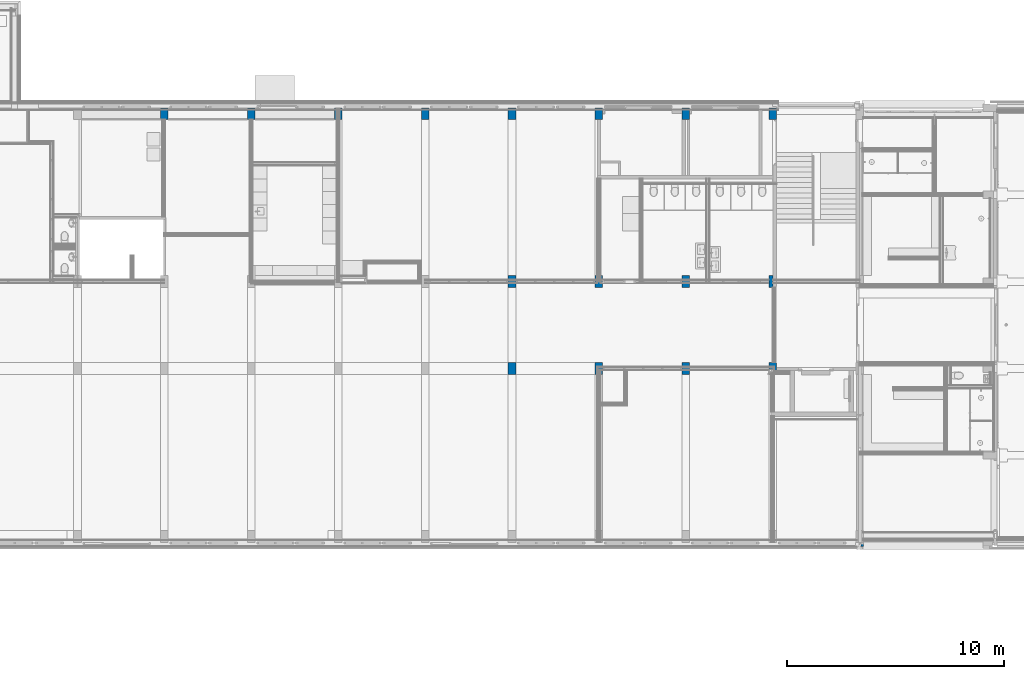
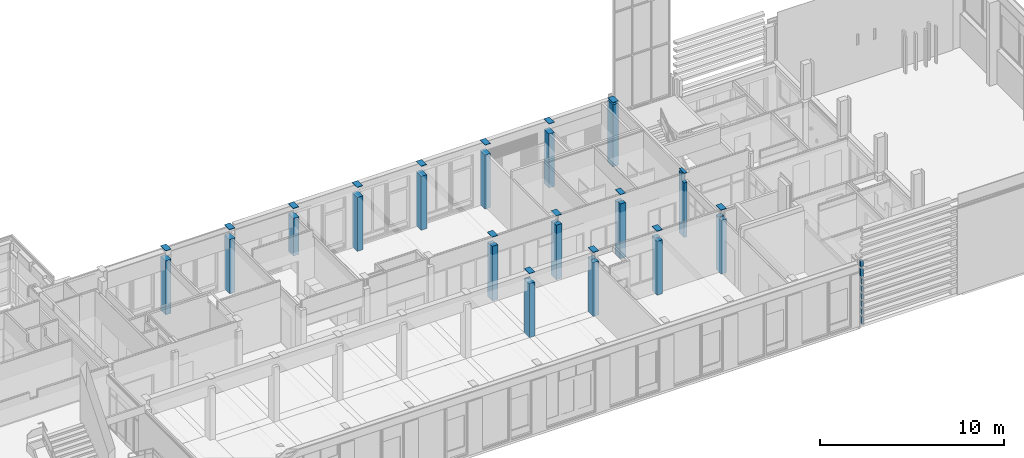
# One storey, part 5 of 109: 17 columns.
"""IFC2X3 building model written with IfcOpenShell, lengths in millimetres."""

from ifc_helpers import new_model, entity, si_unit, converted_unit, derived_unit, money_unit, direction, frame, origin_with_axes, place, context, subcontext, project, spatial, faceted_brep, material, type_object, element, save


model = new_model("IFC2X3")

# Units and contexts
model_context = context("Model", 3, precision=0.01, world=origin_with_axes(), true_north=direction((0.0, 1.0)))
body_context = subcontext(model_context, "Body", "Model", "MODEL_VIEW")
ifc_project = project(units=[si_unit("LENGTHUNIT", "METRE", prefix="MILLI"), si_unit("AREAUNIT", "SQUARE_METRE"), si_unit("VOLUMEUNIT", "CUBIC_METRE"), converted_unit("PLANEANGLEUNIT", "DEGREE", entity("IfcPlaneAngleMeasure", 0.0174532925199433), si_unit("PLANEANGLEUNIT", "RADIAN"), dimensions=[0, 0, 0, 0, 0, 0, 0]), money_unit("EUR"), converted_unit("TIMEUNIT", "Year", entity("IfcTimeMeasure", 31557600.0), si_unit("TIMEUNIT", "SECOND"), dimensions=[0, 0, 1, 0, 0, 0, 0]), si_unit("MASSUNIT", "GRAM", prefix="KILO"), si_unit("THERMODYNAMICTEMPERATUREUNIT", "DEGREE_CELSIUS"), si_unit("LUMINOUSINTENSITYUNIT", "LUMEN"), si_unit("ENERGYUNIT", "JOULE", prefix="MEGA"), derived_unit("THERMALCONDUCTANCEUNIT", [(si_unit("POWERUNIT", "WATT"), 1), (si_unit("LENGTHUNIT", "METRE"), -1), (si_unit("THERMODYNAMICTEMPERATUREUNIT", "KELVIN"), -1)]), derived_unit("SPECIFICHEATCAPACITYUNIT", [(si_unit("ENERGYUNIT", "JOULE"), 1), (si_unit("MASSUNIT", "GRAM", prefix="KILO"), -1), (si_unit("THERMODYNAMICTEMPERATUREUNIT", "KELVIN"), -1)]), derived_unit("MASSDENSITYUNIT", [(si_unit("MASSUNIT", "GRAM", prefix="KILO"), 1), (si_unit("VOLUMEUNIT", "CUBIC_METRE"), -1)])], contexts=[model_context])

# Site, building, storey
site_placement = place(None, origin_with_axes())
site = spatial("IfcSite", under=ifc_project, at=site_placement, Name="<site naam>", CompositionType="ELEMENT")
building_placement = place(site_placement, origin_with_axes())
building = spatial("IfcBuilding", under=site, at=building_placement, Name="<Naam gebouw>", CompositionType="ELEMENT")
storey_placement = place(building_placement, origin_with_axes())
storey = spatial("IfcBuildingStorey", under=building, at=storey_placement, Name="00 Begane grond", CompositionType="ELEMENT", Elevation=0.0)

# Columns
ifc_material = material(Name="betonblok C")
column_type_1 = type_object("IfcColumnType", Name="betonblok C 350 x 550", PredefinedType="COLUMN")
column_1_placement = place(storey_placement, frame((28000.00000000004, 19724.99999999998, 1100.0), z_axis=(0.0, 0.0, 1.0), x_axis=(1.0, 0.0, 0.0)))
element("IfcColumn", 1, at=column_1_placement, inside=storey, type_object=column_type_1, material=ifc_material, Name="28_Kolom_betonblok", ObjectType="COLUMN", context=body_context, shape_type="Brep", body=[
    faceted_brep([(-175.0000000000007, 274.9999999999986, 0.0), (-175.0000000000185, 274.9999999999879, 2485.000000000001), (174.9999999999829, 274.9999999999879, 2485.000000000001), (175.0000000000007, 274.9999999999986, 0.0), (-175.0000000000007, -274.9999999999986, 0.0), (-175.0000000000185, -274.9999999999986, 2485.000000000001), (174.9999999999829, -274.9999999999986, 2485.000000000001), (175.0000000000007, -274.9999999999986, 0.0)], [[[0, 1, 2, 3]], [[4, 5, 1, 0]], [[5, 6, 2, 1]], [[3, 2, 6, 7]], [[0, 3, 7, 4]], [[7, 6, 5, 4]]]),
    faceted_brep([(175.0000000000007, -274.9999999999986, 3150.0), (175.0000000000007, -274.9999999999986, 3120.0), (175.0000000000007, 274.9999999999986, 3120.0), (175.0000000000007, 274.9999999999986, 3150.0), (-175.0000000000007, -274.9999999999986, 3150.0), (-175.0000000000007, -274.9999999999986, 3120.0), (-175.0000000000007, 274.9999999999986, 3120.0), (-175.0000000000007, 274.9999999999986, 3150.0)], [[[0, 1, 2, 3]], [[4, 5, 1, 0]], [[5, 6, 2, 1]], [[3, 2, 6, 7]], [[3, 7, 4, 0]], [[7, 6, 5, 4]]]),
])
column_2_placement = place(storey_placement, frame((36000.00000000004, 12000.00000000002, 0.0), z_axis=(0.0, 0.0, 1.0), x_axis=(1.0, 0.0, 0.0)))
element("IfcColumn", 2, at=column_2_placement, inside=storey, type_object=column_type_1, material=ifc_material, Name="28_Kolom_betonblok", ObjectType="COLUMN", context=body_context, shape_type="Brep", body=[
    faceted_brep([(-175.0000000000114, 0.0, 3570.0), (-175.0000000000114, 0.0, 3620.0), (174.9999999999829, 0.0, 3620.0), (174.9999999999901, 0.0, 3570.0), (-174.9999999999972, -275.0000000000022, 0.0), (-175.0000000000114, -275.0000000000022, 3620.0), (-175.0000000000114, 274.9999999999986, 3570.0), (-174.9999999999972, 274.9999999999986, 0.0), (174.9999999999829, -275.0000000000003, 3620.0), (174.9999999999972, -275.0000000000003, 0.0), (174.9999999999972, 275.0000000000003, 0.0), (174.9999999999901, 275.0000000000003, 3570.0)], [[[0, 1, 2, 3]], [[4, 5, 1, 0, 6, 7]], [[5, 8, 2, 1]], [[3, 2, 8, 9, 10, 11]], [[0, 3, 11, 6]], [[9, 8, 5, 4]], [[7, 6, 11, 10]], [[7, 10, 9, 4]]]),
    faceted_brep([(174.9999999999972, -275.0000000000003, 4250.0), (174.9999999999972, -275.0000000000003, 4220.0), (174.9999999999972, 275.0000000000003, 4220.0), (174.9999999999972, 275.0000000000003, 4250.0), (-174.9999999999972, -275.0000000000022, 4250.0), (-174.9999999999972, -275.0000000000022, 4220.0), (-174.9999999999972, 274.9999999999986, 4220.0), (-174.9999999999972, 274.9999999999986, 4250.0)], [[[0, 1, 2, 3]], [[4, 5, 1, 0]], [[5, 6, 2, 1]], [[3, 2, 6, 7]], [[3, 7, 4, 0]], [[7, 6, 5, 4]]]),
])
column_3_placement = place(storey_placement, frame((40000.00000000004, 12000.00000000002, 0.0), z_axis=(0.0, 0.0, 1.0), x_axis=(1.0, 0.0, 0.0)))
element("IfcColumn", 3, at=column_3_placement, inside=storey, type_object=column_type_1, material=ifc_material, Name="28_Kolom_betonblok", ObjectType="COLUMN", context=body_context, shape_type="Brep", body=[
    faceted_brep([(-175.0000000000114, 0.0, 3570.0), (-175.0000000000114, 0.0, 3620.0), (174.9999999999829, 0.0, 3620.0), (174.9999999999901, 0.0, 3570.0), (-174.9999999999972, -275.0000000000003, 0.0), (-175.0000000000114, -275.0000000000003, 3620.0), (-175.0000000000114, 275.0000000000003, 3570.0), (-174.9999999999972, 275.0000000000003, 0.0), (174.9999999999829, -275.0000000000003, 3620.0), (174.9999999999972, -275.0000000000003, 0.0), (174.9999999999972, 275.0000000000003, 0.0), (174.9999999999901, 275.0000000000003, 3570.0)], [[[0, 1, 2, 3]], [[4, 5, 1, 0, 6, 7]], [[5, 8, 2, 1]], [[3, 2, 8, 9, 10, 11]], [[0, 3, 11, 6]], [[9, 8, 5, 4]], [[7, 6, 11, 10]], [[7, 10, 9, 4]]]),
    faceted_brep([(174.9999999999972, -275.0000000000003, 4250.0), (174.9999999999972, -275.0000000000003, 4220.0), (174.9999999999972, 275.0000000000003, 4220.0), (174.9999999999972, 275.0000000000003, 4250.0), (-174.9999999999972, -275.0000000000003, 4250.0), (-174.9999999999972, -275.0000000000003, 4220.0), (-174.9999999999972, 275.0000000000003, 4220.0), (-174.9999999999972, 275.0000000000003, 4250.0)], [[[0, 1, 2, 3]], [[4, 5, 1, 0]], [[5, 6, 2, 1]], [[3, 2, 6, 7]], [[3, 7, 4, 0]], [[7, 6, 5, 4]]]),
])
column_4_placement = place(storey_placement, frame((40000.00000000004, 19724.99999999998, 0.0), z_axis=(0.0, 0.0, 1.0), x_axis=(1.0, 0.0, 0.0)))
element("IfcColumn", 4, at=column_4_placement, inside=storey, type_object=column_type_1, material=ifc_material, Name="28_Kolom_betonblok", ObjectType="COLUMN", context=body_context, shape_type="Brep", body=[
    faceted_brep([(-174.9999999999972, 274.999999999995, 0.0), (-175.0000000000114, 274.9999999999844, 3570.0), (174.9999999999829, 274.9999999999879, 3570.0), (174.9999999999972, 274.9999999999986, 0.0), (-174.9999999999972, -275.0000000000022, 0.0), (-175.0000000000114, -275.0000000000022, 3570.0), (174.9999999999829, -274.9999999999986, 3570.0), (174.9999999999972, -274.9999999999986, 0.0)], [[[0, 1, 2, 3]], [[4, 5, 1, 0]], [[5, 6, 2, 1]], [[3, 2, 6, 7]], [[0, 3, 7, 4]], [[7, 6, 5, 4]]]),
    faceted_brep([(174.9999999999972, -274.9999999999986, 4250.0), (174.9999999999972, -274.9999999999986, 4220.0), (174.9999999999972, 274.9999999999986, 4220.0), (174.9999999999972, 274.9999999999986, 4250.0), (-174.9999999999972, -275.0000000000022, 4250.0), (-174.9999999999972, -275.0000000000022, 4220.0), (-174.9999999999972, 274.999999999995, 4220.0), (-174.9999999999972, 274.999999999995, 4250.0)], [[[0, 1, 2, 3]], [[4, 5, 1, 0]], [[5, 6, 2, 1]], [[3, 2, 6, 7]], [[3, 7, 4, 0]], [[7, 6, 5, 4]]]),
])
for number, where, z_axis, x_axis, name in (
    (5, (36000.00000000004, 19724.99999999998, 0.0), (0.0, 0.0, 1.0), (1.0, 0.0, 0.0), "28_Kolom_betonblok"),
    (6, (44000.00000000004, 19724.99999999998, 0.0), (0.0, 0.0, 1.0), (1.0, 0.0, 0.0), "28_Kolom_betonblok"),
):
    element("IfcColumn", number, at=place(storey_placement, frame(where, z_axis=z_axis, x_axis=x_axis)), inside=storey, type_object=column_type_1, material=ifc_material, Name=name, ObjectType="COLUMN", context=body_context, shape_type="Brep", body=[
        faceted_brep([(-174.9999999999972, 274.9999999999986, 0.0), (-175.0000000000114, 274.9999999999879, 3570.0), (174.9999999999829, 274.9999999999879, 3570.0), (174.9999999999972, 274.9999999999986, 0.0), (-174.9999999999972, -274.9999999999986, 0.0), (-175.0000000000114, -274.9999999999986, 3570.0), (174.9999999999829, -274.9999999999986, 3570.0), (174.9999999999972, -274.9999999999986, 0.0)], [[[0, 1, 2, 3]], [[4, 5, 1, 0]], [[5, 6, 2, 1]], [[3, 2, 6, 7]], [[0, 3, 7, 4]], [[7, 6, 5, 4]]]),
        faceted_brep([(174.9999999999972, -274.9999999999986, 4250.0), (174.9999999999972, -274.9999999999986, 4220.0), (174.9999999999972, 274.9999999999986, 4220.0), (174.9999999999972, 274.9999999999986, 4250.0), (-174.9999999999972, -274.9999999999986, 4250.0), (-174.9999999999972, -274.9999999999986, 4220.0), (-174.9999999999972, 274.9999999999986, 4220.0), (-174.9999999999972, 274.9999999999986, 4250.0)], [[[0, 1, 2, 3]], [[4, 5, 1, 0]], [[5, 6, 2, 1]], [[3, 2, 6, 7]], [[3, 7, 4, 0]], [[7, 6, 5, 4]]]),
    ])
column_5_placement = place(storey_placement, frame((48000.00000000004, 8000.000000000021, 0.0), z_axis=(0.0, 0.0, 1.0), x_axis=(1.0, 0.0, 0.0)))
element("IfcColumn", 7, at=column_5_placement, inside=storey, type_object=column_type_1, material=ifc_material, Name="28_Kolom_betonblok", ObjectType="COLUMN", context=body_context, shape_type="Brep", body=[
    faceted_brep([(-175.0000000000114, 275.0000000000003, 3620.0), (-175.0000000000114, 0.0, 3620.0), (174.9999999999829, 0.0, 3620.0), (174.9999999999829, 275.0000000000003, 3620.0), (-175.0000000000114, -275.0000000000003, 3570.0), (-175.0000000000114, 0.0, 3570.0), (-174.9999999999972, 275.0000000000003, 0.0), (-174.9999999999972, -275.0000000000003, 0.0), (174.9999999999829, 0.0, 3570.0), (174.9999999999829, -275.0000000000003, 3570.0), (174.9999999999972, -275.0000000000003, 0.0), (174.9999999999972, 275.0000000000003, 0.0)], [[[0, 1, 2, 3]], [[4, 5, 1, 0, 6, 7]], [[5, 8, 2, 1]], [[2, 8, 9, 10, 11, 3]], [[6, 0, 3, 11]], [[4, 9, 8, 5]], [[6, 11, 10, 7]], [[10, 9, 4, 7]]]),
    faceted_brep([(174.9999999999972, -275.0000000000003, 4250.0), (174.9999999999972, -275.0000000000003, 4220.0), (174.9999999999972, 275.0000000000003, 4220.0), (174.9999999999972, 275.0000000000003, 4250.0), (-174.9999999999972, -275.0000000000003, 4250.0), (-174.9999999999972, -275.0000000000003, 4220.0), (-174.9999999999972, 275.0000000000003, 4220.0), (-174.9999999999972, 275.0000000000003, 4250.0)], [[[0, 1, 2, 3]], [[4, 5, 1, 0]], [[5, 6, 2, 1]], [[3, 2, 6, 7]], [[3, 7, 4, 0]], [[7, 6, 5, 4]]]),
])
column_6_placement = place(storey_placement, frame((44000.00000000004, 12000.00000000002, 0.0), z_axis=(0.0, 0.0, 1.0), x_axis=(1.0, 0.0, 0.0)))
element("IfcColumn", 8, at=column_6_placement, inside=storey, type_object=column_type_1, material=ifc_material, Name="28_Kolom_betonblok", ObjectType="COLUMN", context=body_context, shape_type="Brep", body=[
    faceted_brep([(-175.0000000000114, 0.0, 3570.0), (-175.0000000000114, 0.0, 3620.0), (174.9999999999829, 0.0, 3620.0), (174.9999999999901, 0.0, 3570.0), (-174.9999999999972, -275.0000000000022, 0.0), (-175.0000000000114, -275.0000000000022, 3620.0), (-175.0000000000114, 274.9999999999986, 3570.0), (-174.9999999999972, 274.9999999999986, 0.0), (174.9999999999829, -275.0000000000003, 3620.0), (174.9999999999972, -275.0000000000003, 0.0), (174.9999999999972, 275.0000000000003, 0.0), (174.9999999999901, 275.0000000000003, 3570.0)], [[[0, 1, 2, 3]], [[4, 5, 1, 0, 6, 7]], [[5, 8, 2, 1]], [[3, 2, 8, 9, 10, 11]], [[0, 3, 11, 6]], [[9, 8, 5, 4]], [[7, 6, 11, 10]], [[7, 10, 9, 4]]]),
    faceted_brep([(174.9999999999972, -275.0000000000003, 4250.0), (174.9999999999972, -275.0000000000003, 4220.0), (174.9999999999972, 275.0000000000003, 4220.0), (174.9999999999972, 275.0000000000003, 4250.0), (-174.9999999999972, -275.0000000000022, 4250.0), (-174.9999999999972, -275.0000000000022, 4220.0), (-174.9999999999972, 274.9999999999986, 4220.0), (-174.9999999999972, 274.9999999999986, 4250.0)], [[[0, 1, 2, 3]], [[4, 5, 1, 0]], [[5, 6, 2, 1]], [[3, 2, 6, 7]], [[3, 7, 4, 0]], [[7, 6, 5, 4]]]),
])
column_7_placement = place(storey_placement, frame((44000.00000000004, 8000.000000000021, 0.0), z_axis=(0.0, 0.0, 1.0), x_axis=(1.0, 0.0, 0.0)))
element("IfcColumn", 9, at=column_7_placement, inside=storey, type_object=column_type_1, material=ifc_material, Name="28_Kolom_betonblok", ObjectType="COLUMN", context=body_context, shape_type="Brep", body=[
    faceted_brep([(-175.0000000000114, 274.9999999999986, 3620.0), (-175.0000000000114, 0.0, 3620.0), (174.9999999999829, 0.0, 3620.0), (174.9999999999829, 275.0000000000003, 3620.0), (-175.0000000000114, -275.0000000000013, 3570.0), (-175.0000000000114, 0.0, 3570.0), (-174.9999999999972, 274.9999999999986, 0.0), (-174.9999999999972, -275.0000000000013, 0.0), (174.9999999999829, 0.0, 3570.0), (174.9999999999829, -275.0000000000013, 3570.0), (174.9999999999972, -275.0000000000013, 0.0), (174.9999999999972, 275.0000000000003, 0.0)], [[[0, 1, 2, 3]], [[4, 5, 1, 0, 6, 7]], [[5, 8, 2, 1]], [[2, 8, 9, 10, 11, 3]], [[6, 0, 3, 11]], [[4, 9, 8, 5]], [[6, 11, 10, 7]], [[10, 9, 4, 7]]]),
    faceted_brep([(174.9999999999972, -275.0000000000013, 4250.0), (174.9999999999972, -275.0000000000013, 4220.0), (174.9999999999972, 275.0000000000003, 4220.0), (174.9999999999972, 275.0000000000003, 4250.0), (-174.9999999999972, -275.0000000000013, 4250.0), (-174.9999999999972, -275.0000000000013, 4220.0), (-174.9999999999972, 274.9999999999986, 4220.0), (-174.9999999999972, 274.9999999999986, 4250.0)], [[[0, 1, 2, 3]], [[4, 5, 1, 0]], [[5, 6, 2, 1]], [[3, 2, 6, 7]], [[3, 7, 4, 0]], [[7, 6, 5, 4]]]),
])
column_8_placement = place(storey_placement, frame((36000.00000000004, 8000.000000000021, 0.0), z_axis=(0.0, 0.0, 1.0), x_axis=(1.0, 0.0, 0.0)))
element("IfcColumn", 10, at=column_8_placement, inside=storey, type_object=column_type_1, material=ifc_material, Name="28_Kolom_betonblok", ObjectType="COLUMN", context=body_context, shape_type="Brep", body=[
    faceted_brep([(-175.0000000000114, 274.9999999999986, 3620.0), (-175.0000000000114, 224.9999999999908, 3620.0), (174.9999999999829, 224.9999999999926, 3620.0), (174.9999999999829, 275.0000000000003, 3620.0), (-175.0000000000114, -275.0000000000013, 3570.0), (-175.0000000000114, 224.9999999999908, 3570.0), (-174.9999999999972, 274.9999999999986, 0.0), (-174.9999999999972, -275.0000000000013, 0.0), (174.9999999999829, 224.9999999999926, 3570.0), (174.9999999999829, -275.0000000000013, 3570.0), (174.9999999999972, -275.0000000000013, 0.0), (174.9999999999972, 275.0000000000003, 0.0)], [[[0, 1, 2, 3]], [[4, 5, 1, 0, 6, 7]], [[5, 8, 2, 1]], [[2, 8, 9, 10, 11, 3]], [[6, 0, 3, 11]], [[4, 9, 8, 5]], [[6, 11, 10, 7]], [[10, 9, 4, 7]]]),
    faceted_brep([(174.9999999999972, -275.0000000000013, 4250.0), (174.9999999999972, -275.0000000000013, 4220.0), (174.9999999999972, 275.0000000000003, 4220.0), (174.9999999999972, 275.0000000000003, 4250.0), (-174.9999999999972, -275.0000000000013, 4250.0), (-174.9999999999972, -275.0000000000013, 4220.0), (-174.9999999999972, 274.9999999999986, 4220.0), (-174.9999999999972, 274.9999999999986, 4250.0)], [[[0, 1, 2, 3]], [[4, 5, 1, 0]], [[5, 6, 2, 1]], [[3, 2, 6, 7]], [[3, 7, 4, 0]], [[7, 6, 5, 4]]]),
])
column_9_placement = place(storey_placement, frame((32000.00000000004, 19724.99999999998, 0.0), z_axis=(0.0, 0.0, 1.0), x_axis=(1.0, 0.0, 0.0)))
element("IfcColumn", 11, at=column_9_placement, inside=storey, type_object=column_type_1, material=ifc_material, Name="28_Kolom_betonblok", ObjectType="COLUMN", context=body_context, shape_type="Brep", body=[
    faceted_brep([(-174.9999999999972, 274.9999999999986, 0.0), (-175.0000000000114, 274.9999999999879, 3570.0), (174.9999999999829, 274.9999999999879, 3570.0), (174.9999999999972, 274.9999999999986, 0.0), (-174.9999999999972, -274.9999999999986, 0.0), (-175.0000000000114, -274.9999999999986, 3570.0), (174.9999999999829, -274.9999999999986, 3570.0), (174.9999999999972, -274.9999999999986, 0.0)], [[[0, 1, 2, 3]], [[4, 5, 1, 0]], [[5, 6, 2, 1]], [[3, 2, 6, 7]], [[0, 3, 7, 4]], [[7, 6, 5, 4]]]),
    faceted_brep([(174.9999999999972, -274.9999999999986, 4250.0), (174.9999999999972, -274.9999999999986, 4220.0), (174.9999999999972, 274.9999999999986, 4220.0), (174.9999999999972, 274.9999999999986, 4250.0), (-174.9999999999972, -274.9999999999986, 4250.0), (-174.9999999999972, -274.9999999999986, 4220.0), (-174.9999999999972, 274.9999999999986, 4220.0), (-174.9999999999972, 274.9999999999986, 4250.0)], [[[0, 1, 2, 3]], [[4, 5, 1, 0]], [[5, 6, 2, 1]], [[3, 2, 6, 7]], [[3, 7, 4, 0]], [[7, 6, 5, 4]]]),
])
column_10_placement = place(storey_placement, frame((40000.00000000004, 8000.000000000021, 0.0), z_axis=(0.0, 0.0, 1.0), x_axis=(1.0, 0.0, 0.0)))
element("IfcColumn", 12, at=column_10_placement, inside=storey, type_object=column_type_1, material=ifc_material, Name="28_Kolom_betonblok", ObjectType="COLUMN", context=body_context, shape_type="Brep", body=[
    faceted_brep([(-175.0000000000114, 275.0000000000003, 3620.0), (-175.0000000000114, 0.0, 3620.0), (174.9999999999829, 0.0, 3620.0), (174.9999999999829, 275.0000000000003, 3620.0), (-175.0000000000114, -275.0000000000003, 3570.0), (-175.0000000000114, 0.0, 3570.0), (-174.9999999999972, 275.0000000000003, 0.0), (-174.9999999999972, -275.0000000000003, 0.0), (174.9999999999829, 0.0, 3570.0), (174.9999999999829, -275.0000000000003, 3570.0), (174.9999999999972, -275.0000000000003, 0.0), (174.9999999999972, 275.0000000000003, 0.0)], [[[0, 1, 2, 3]], [[4, 5, 1, 0, 6, 7]], [[5, 8, 2, 1]], [[2, 8, 9, 10, 11, 3]], [[6, 0, 3, 11]], [[4, 9, 8, 5]], [[6, 11, 10, 7]], [[10, 9, 4, 7]]]),
    faceted_brep([(174.9999999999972, -275.0000000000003, 4250.0), (174.9999999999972, -275.0000000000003, 4220.0), (174.9999999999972, 275.0000000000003, 4220.0), (174.9999999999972, 275.0000000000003, 4250.0), (-174.9999999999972, -275.0000000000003, 4250.0), (-174.9999999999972, -275.0000000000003, 4220.0), (-174.9999999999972, 275.0000000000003, 4220.0), (-174.9999999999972, 275.0000000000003, 4250.0)], [[[0, 1, 2, 3]], [[4, 5, 1, 0]], [[5, 6, 2, 1]], [[3, 2, 6, 7]], [[3, 7, 4, 0]], [[7, 6, 5, 4]]]),
])
column_11_placement = place(storey_placement, frame((48000.00000000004, 12000.00000000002, 0.0), z_axis=(0.0, 0.0, 1.0), x_axis=(1.0, 0.0, 0.0)))
element("IfcColumn", 13, at=column_11_placement, inside=storey, type_object=column_type_1, material=ifc_material, Name="28_Kolom_betonblok", ObjectType="COLUMN", context=body_context, shape_type="Brep", body=[
    faceted_brep([(-174.9999999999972, 275.0000000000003, 4100.0), (-175.0000000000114, 0.0, 4100.0), (14.99999999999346, 0.0, 4100.0), (14.99999999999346, 275.0000000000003, 4100.0), (-175.0000000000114, -275.0000000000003, 3620.0), (-175.0000000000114, 0.0, 3620.0), (-174.9999999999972, 275.0000000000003, 0.0), (-174.9999999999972, -275.0000000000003, 0.0), (14.99999999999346, 0.0, 3620.0), (14.99999999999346, -275.0000000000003, 3620.0), (14.99999999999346, -275.0000000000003, 0.0), (14.99999999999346, 275.0000000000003, 0.0)], [[[0, 1, 2, 3]], [[4, 5, 1, 0, 6, 7]], [[5, 8, 2, 1]], [[2, 8, 9, 10, 11, 3]], [[11, 6, 0, 3]], [[4, 9, 8, 5]], [[10, 7, 6, 11]], [[10, 9, 4, 7]]]),
    faceted_brep([(14.99999999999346, -275.0000000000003, 4250.0), (14.99999999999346, -275.0000000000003, 4220.0), (14.99999999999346, 275.0000000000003, 4220.0), (14.99999999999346, 275.0000000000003, 4250.0), (-174.9999999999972, -275.0000000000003, 4250.0), (-174.9999999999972, -275.0000000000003, 4220.0), (-174.9999999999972, 275.0000000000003, 4220.0), (-174.9999999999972, 275.0000000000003, 4250.0)], [[[0, 1, 2, 3]], [[4, 5, 1, 0]], [[5, 6, 2, 1]], [[3, 2, 6, 7]], [[7, 4, 0, 3]], [[7, 6, 5, 4]]]),
])
column_12_placement = place(storey_placement, frame((24000.00000000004, 19724.99999999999, 0.0), z_axis=(0.0, 0.0, 1.0), x_axis=(1.0, 0.0, 0.0)))
element("IfcColumn", 14, at=column_12_placement, inside=storey, type_object=column_type_1, material=ifc_material, Name="28_Kolom_betonblok", ObjectType="COLUMN", context=body_context, shape_type="Brep", body=[
    faceted_brep([(-175.0000000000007, 274.999999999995, 0.0), (-175.0000000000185, 274.9999999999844, 3585.000000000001), (174.9999999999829, 274.9999999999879, 3585.000000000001), (175.0000000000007, 274.9999999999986, 0.0), (-175.0000000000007, -275.0000000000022, 0.0), (-175.0000000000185, -275.0000000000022, 3585.000000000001), (174.9999999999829, -274.9999999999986, 3585.000000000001), (175.0000000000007, -274.9999999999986, 0.0)], [[[0, 1, 2, 3]], [[4, 5, 1, 0]], [[5, 6, 2, 1]], [[3, 2, 6, 7]], [[0, 3, 7, 4]], [[7, 6, 5, 4]]]),
    faceted_brep([(175.0000000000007, -274.9999999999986, 4250.0), (175.0000000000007, -274.9999999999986, 4220.0), (175.0000000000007, 274.9999999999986, 4220.0), (175.0000000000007, 274.9999999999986, 4250.0), (-175.0000000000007, -275.0000000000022, 4250.0), (-175.0000000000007, -275.0000000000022, 4220.0), (-175.0000000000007, 274.999999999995, 4220.0), (-175.0000000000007, 274.999999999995, 4250.0)], [[[0, 1, 2, 3]], [[4, 5, 1, 0]], [[5, 6, 2, 1]], [[3, 2, 6, 7]], [[3, 7, 4, 0]], [[7, 6, 5, 4]]]),
])
column_13_placement = place(storey_placement, frame((20000.00000000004, 19724.99999999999, 0.0), z_axis=(0.0, 0.0, 1.0), x_axis=(1.0, 0.0, 0.0)))
element("IfcColumn", 15, at=column_13_placement, inside=storey, type_object=column_type_1, material=ifc_material, Name="28_Kolom_betonblok", ObjectType="COLUMN", context=body_context, shape_type="Brep", body=[
    faceted_brep([(-175.0000000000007, 274.9999999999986, 0.0), (-175.0000000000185, 274.9999999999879, 3570.0), (174.9999999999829, 274.9999999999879, 3570.0), (175.0000000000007, 274.9999999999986, 0.0), (-175.0000000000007, -274.9999999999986, 0.0), (-175.0000000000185, -274.9999999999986, 3570.0), (174.9999999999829, -274.9999999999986, 3570.0), (175.0000000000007, -274.9999999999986, 0.0)], [[[0, 1, 2, 3]], [[4, 5, 1, 0]], [[5, 6, 2, 1]], [[3, 2, 6, 7]], [[0, 3, 7, 4]], [[7, 6, 5, 4]]]),
    faceted_brep([(175.0000000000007, -274.9999999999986, 4250.0), (175.0000000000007, -274.9999999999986, 4220.0), (175.0000000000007, 274.9999999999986, 4220.0), (175.0000000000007, 274.9999999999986, 4250.0), (-175.0000000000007, -274.9999999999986, 4250.0), (-175.0000000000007, -274.9999999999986, 4220.0), (-175.0000000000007, 274.9999999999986, 4220.0), (-175.0000000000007, 274.9999999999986, 4250.0)], [[[0, 1, 2, 3]], [[4, 5, 1, 0]], [[5, 6, 2, 1]], [[3, 2, 6, 7]], [[3, 7, 4, 0]], [[7, 6, 5, 4]]]),
])
column_14_placement = place(storey_placement, frame((48000.00000000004, 19724.99999999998, 0.0), z_axis=(0.0, 0.0, 1.0), x_axis=(1.0, 0.0, 0.0)))
element("IfcColumn", 16, at=column_14_placement, inside=storey, type_object=column_type_1, material=ifc_material, Name="28_Kolom_betonblok", ObjectType="COLUMN", context=body_context, shape_type="Brep", body=[
    faceted_brep([(-174.9999999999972, 274.9999999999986, 0.0), (-174.9999999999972, 274.9999999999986, 4100.0), (174.5778542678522, 274.9999999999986, 4100.0), (174.5778542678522, 274.9999999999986, 4220.0), (-174.9999999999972, 274.9999999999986, 4220.0), (-174.9999999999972, 274.9999999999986, 4250.0), (174.9999999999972, 274.9999999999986, 4250.0), (174.9999999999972, 274.9999999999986, 0.0), (-174.9999999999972, -274.9999999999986, 0.0), (-174.9999999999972, -274.9999999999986, 4100.0), (174.5778542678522, -274.9999999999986, 4100.0), (174.5778542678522, -274.9999999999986, 4220.0), (-174.9999999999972, -274.9999999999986, 4220.0), (-174.9999999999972, -274.9999999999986, 4250.0), (174.9999999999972, -274.9999999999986, 4250.0), (174.9999999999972, -274.9999999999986, 0.0)], [[[0, 1, 2, 3, 4, 5, 6, 7]], [[8, 9, 1, 0]], [[10, 2, 1, 9]], [[11, 3, 2, 10]], [[12, 4, 3, 11]], [[5, 4, 12, 13]], [[14, 6, 5, 13]], [[7, 6, 14, 15]], [[0, 7, 15, 8]], [[11, 10, 9, 8, 15, 14, 13, 12]]]),
])
column_type_2 = type_object("IfcColumnType", Name="betonblok C 175 x 195", PredefinedType="COLUMN")
column_15_placement = place(storey_placement, frame((52087.49973718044, -97.50000194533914, 0.0), z_axis=(0.0, 0.0, 1.0), x_axis=(-1.0, 0.0, 0.0)))
element("IfcColumn", 17, at=column_15_placement, inside=storey, type_object=column_type_2, material=ifc_material, Name="28_Kolom_betonblok", ObjectType="COLUMN", context=body_context, shape_type="Brep", body=[
    faceted_brep([(22.49973718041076, -97.50000194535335, 0.0), (22.49973718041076, -97.50000194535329, 500.0), (-87.50026281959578, -97.50000194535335, 500.0), (-87.50026281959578, -97.50000194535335, 0.0), (22.49973718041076, 97.50000194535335, 20.00001468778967), (22.49973718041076, 97.50000194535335, 500.0), (22.49973718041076, 27.49999805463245, 0.0), (22.49973718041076, 27.49999805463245, 20.00001468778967), (-87.50026281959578, 97.50000194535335, 500.0), (-87.50026281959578, 97.50000194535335, 20.00001468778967), (-87.50026281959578, 27.49999805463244, 20.00001468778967), (-87.50026281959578, 27.49999805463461, 0.0)], [[[0, 1, 2, 3]], [[4, 5, 1, 0, 6, 7]], [[5, 8, 2, 1]], [[3, 2, 8, 9, 10, 11]], [[3, 11, 6, 0]], [[9, 8, 5, 4]], [[6, 11, 10, 7]], [[7, 10, 9, 4]]]),
    faceted_brep([(22.49973718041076, -97.50000194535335, 3150.0), (22.49973718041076, -97.50000194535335, 3687.5), (-87.50026281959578, -97.50000194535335, 3687.5), (-87.50026281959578, -97.50000194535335, 3150.0), (22.49973718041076, -33.50000194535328, 3188.0), (22.49973718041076, -33.50000194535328, 3687.5), (22.49973718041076, 97.50000194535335, 3150.0), (22.49973718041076, 97.50000194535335, 3188.0), (87.4997371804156, 97.50000194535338, 3687.5), (-87.50026281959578, 97.50000194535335, 3687.5), (87.4997371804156, -33.50000194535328, 3687.5), (-87.50026281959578, 97.50000194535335, 3150.0), (87.50026281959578, -33.50000194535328, 3188.0), (87.50026281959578, 97.50000194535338, 3188.0)], [[[0, 1, 2, 3]], [[4, 5, 1, 0, 6, 7]], [[8, 9, 2, 1, 5, 10]], [[3, 2, 9, 11]], [[6, 0, 3, 11]], [[12, 10, 5, 4]], [[11, 9, 8, 13, 7, 6]], [[7, 13, 12, 4]], [[13, 8, 10, 12]]]),
    faceted_brep([(-87.50026281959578, 97.50000194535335, 4187.5), (-87.50026281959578, 97.50000194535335, 3837.5), (-87.50026281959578, -97.50000194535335, 3837.5), (-87.50026281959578, -97.50000194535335, 4187.5), (87.4997371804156, 97.50000194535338, 4187.5), (87.4997371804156, 97.50000194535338, 3837.5), (22.49973718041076, -33.50000194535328, 3837.5), (22.49973718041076, -97.50000194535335, 3837.5), (87.4997371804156, -33.50000194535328, 3837.5), (22.49973718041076, -97.50000194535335, 4187.5), (22.49973718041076, -33.50000194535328, 4187.5), (87.4997371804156, -33.50000194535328, 4187.5)], [[[0, 1, 2, 3]], [[4, 5, 1, 0]], [[6, 7, 2, 1, 5, 8]], [[3, 2, 7, 9]], [[4, 0, 3, 9, 10, 11]], [[11, 8, 5, 4]], [[9, 7, 6, 10]], [[10, 6, 8, 11]]]),
    faceted_brep([(-87.50026281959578, 97.50000194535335, 3000.0), (-87.50026281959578, 97.50000194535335, 2650.0), (-87.50026281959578, -97.50000194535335, 2650.0), (-87.50026281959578, -97.50000194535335, 3000.0), (22.49973718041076, 97.50000194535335, 3000.0), (22.49973718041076, 97.50000194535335, 2650.0), (22.49973718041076, -97.50000194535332, 2650.0), (22.49973718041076, -97.50000194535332, 3000.0)], [[[0, 1, 2, 3]], [[4, 5, 1, 0]], [[5, 6, 2, 1]], [[3, 2, 6, 7]], [[4, 0, 3, 7]], [[7, 6, 5, 4]]]),
    faceted_brep([(-87.50026281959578, 97.50000194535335, 2500.0), (-87.50026281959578, 97.50000194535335, 2150.0), (-87.50026281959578, -97.50000194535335, 2150.0), (-87.50026281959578, -97.50000194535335, 2500.0), (22.49973718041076, 97.50000194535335, 2500.0), (22.49973718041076, 97.50000194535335, 2150.0), (22.49973718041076, -97.50000194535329, 2150.0), (22.49973718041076, -97.50000194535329, 2500.0)], [[[0, 1, 2, 3]], [[4, 5, 1, 0]], [[5, 6, 2, 1]], [[3, 2, 6, 7]], [[4, 0, 3, 7]], [[7, 6, 5, 4]]]),
    faceted_brep([(-87.50026281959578, 97.50000194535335, 2000.0), (-87.50026281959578, 97.50000194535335, 1660.0), (-87.50026281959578, -97.50000194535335, 1660.0), (-87.50026281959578, -97.50000194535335, 2000.0), (22.49973718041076, 97.50000194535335, 2000.0), (22.49973718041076, 97.50000194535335, 1660.0), (22.49973718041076, -97.50000194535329, 1660.0), (22.49973718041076, -97.50000194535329, 2000.0)], [[[0, 1, 2, 3]], [[4, 5, 1, 0]], [[5, 6, 2, 1]], [[3, 2, 6, 7]], [[4, 0, 3, 7]], [[7, 6, 5, 4]]]),
    faceted_brep([(-87.50026281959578, 97.50000194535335, 1510.0), (-87.50026281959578, 97.50000194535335, 1150.0), (-87.50026281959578, -97.50000194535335, 1150.0), (-87.50026281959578, -97.50000194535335, 1510.0), (22.49973718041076, 97.50000194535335, 1510.0), (22.49973718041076, 97.50000194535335, 1150.0), (22.49973718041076, -97.50000194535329, 1150.0), (22.49973718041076, -97.50000194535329, 1510.0)], [[[0, 1, 2, 3]], [[4, 5, 1, 0]], [[5, 6, 2, 1]], [[3, 2, 6, 7]], [[4, 0, 3, 7]], [[7, 6, 5, 4]]]),
    faceted_brep([(-87.50026281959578, 97.50000194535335, 1000.0), (-87.50026281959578, 97.50000194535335, 649.9999999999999), (-87.50026281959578, -97.50000194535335, 649.9999999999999), (-87.50026281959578, -97.50000194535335, 1000.0), (22.49973718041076, 97.50000194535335, 1000.0), (22.49973718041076, 97.50000194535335, 649.9999999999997), (22.49973718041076, -97.50000194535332, 649.9999999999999), (22.49973718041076, -97.50000194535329, 1000.0)], [[[0, 1, 2, 3]], [[4, 5, 1, 0]], [[5, 6, 2, 1]], [[3, 2, 6, 7]], [[4, 0, 3, 7]], [[7, 6, 5, 4]]]),
])

save(model, "model.ifc")
